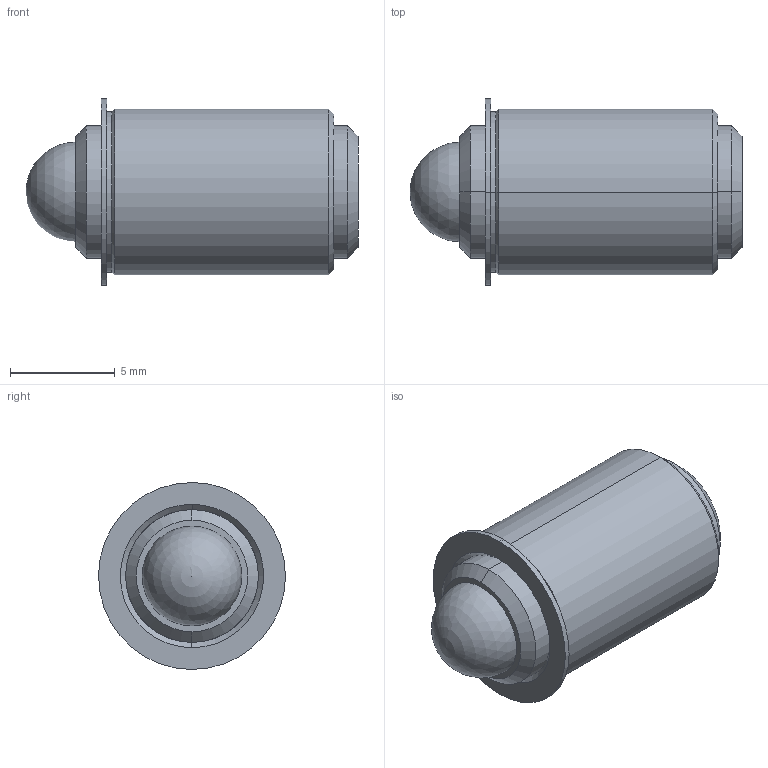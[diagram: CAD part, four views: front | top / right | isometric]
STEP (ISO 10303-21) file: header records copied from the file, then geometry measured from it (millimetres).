
FILE_DESCRIPTION (( 'STEP AP214' ), '1' );
FILE_NAME ('TSB250-80-625_437-AA.STEP', '2013-03-14T12:34:37', ( 'workpc' ), ( 'Microsoft' ), 'SwSTEP 2.0', 'SolidWorks 2013', '' );
FILE_SCHEMA (( 'AUTOMOTIVE_DESIGN' ));
Length unit declared in the file: inch
Products named in the file (1): TSB250-80-625_437-AA
Bounding box: 15.88 x 8.94 x 8.94 mm (x, y, z)
Surface area: 730.9 mm2 (no closed solid volume)
Topology: 0 solids, 3 shells, 33 faces, 77 edges, 49 vertices
Faces by surface type: cone 12, plane 11, cylinder 8, sphere 2
Entity records: 1358 total; most frequent: DIRECTION 174, CARTESIAN_POINT 152, ORIENTED_EDGE 132, EDGE_CURVE 72, AXIS2_PLACEMENT_3D 68, VERTEX_POINT 46, VECTOR 38, LINE 38
